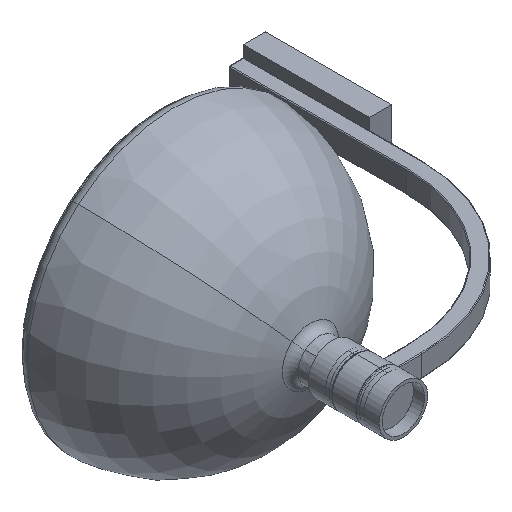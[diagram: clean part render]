
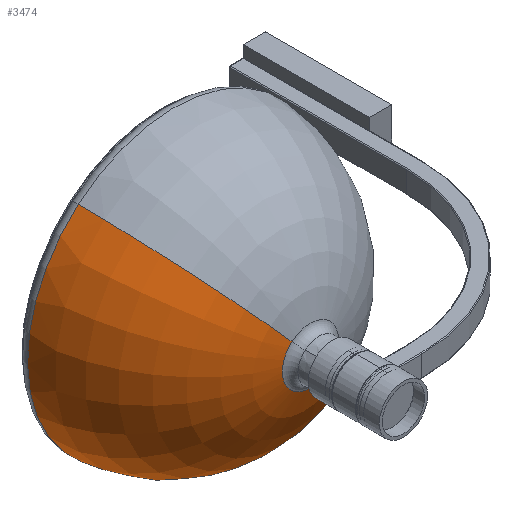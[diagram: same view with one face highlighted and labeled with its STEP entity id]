
A CAD part, isometric view. The second image highlights one B-rep face of the part: STEP entity #3474.
In plain terms, the highlighted toroidal (fillet/blend) face has major radius 1.67 mm and minor radius 196 mm.
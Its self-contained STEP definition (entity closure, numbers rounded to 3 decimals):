
#291 = AXIS2_PLACEMENT_3D ( 'NONE', #8983, #5236, #10469 ) ;
#378 = AXIS2_PLACEMENT_3D ( 'NONE', #3903, #5183, #13286 ) ;
#509 = CARTESIAN_POINT ( 'NONE',  ( 0., 62.257, 0. ) ) ;
#851 = CARTESIAN_POINT ( 'NONE',  ( 0., 245.649, 37.76 ) ) ;
#866 = CARTESIAN_POINT ( 'NONE',  ( 0., 53., 0. ) ) ;
#1367 = CIRCLE ( 'NONE', #16686, 37.76 ) ;
#2012 = CIRCLE ( 'NONE', #15324, 197.451 ) ;
#3474 = ADVANCED_FACE ( 'NONE', ( #7630 ), #8689, .T. ) ;
#3903 = CARTESIAN_POINT ( 'NONE',  ( 0., 53., 1.67 ) ) ;
#4314 = DIRECTION ( 'NONE',  ( 0., 0., -1. ) ) ;
#5183 = DIRECTION ( 'NONE',  ( 1., 0., 0. ) ) ;
#5236 = DIRECTION ( 'NONE',  ( -1., 0., 0. ) ) ;
#5677 = VERTEX_POINT ( 'NONE', #7878 ) ;
#5703 = EDGE_CURVE ( 'NONE', #9194, #5677, #10952, .T. ) ;
#7630 = FACE_OUTER_BOUND ( 'NONE', #8180, .T. ) ;
#7878 = CARTESIAN_POINT ( 'NONE',  ( 0., 62.257, 197.451 ) ) ;
#8180 = EDGE_LOOP ( 'NONE', ( #10520, #9644, #14050, #16552 ) ) ;
#8575 = CIRCLE ( 'NONE', #291, 196. ) ;
#8689 = TOROIDAL_SURFACE ( 'NONE', #14863, 1.67, 196. ) ;
#8983 = CARTESIAN_POINT ( 'NONE',  ( 0., 53., -1.67 ) ) ;
#9071 = VERTEX_POINT ( 'NONE', #15231 ) ;
#9194 = VERTEX_POINT ( 'NONE', #851 ) ;
#9644 = ORIENTED_EDGE ( 'NONE', *, *, #16316, .T. ) ;
#9968 = DIRECTION ( 'NONE',  ( 0., 0., -1. ) ) ;
#10079 = DIRECTION ( 'NONE',  ( 0., -1., 0. ) ) ;
#10115 = DIRECTION ( 'NONE',  ( 0., -1., 0. ) ) ;
#10469 = DIRECTION ( 'NONE',  ( 0., 0., 1. ) ) ;
#10520 = ORIENTED_EDGE ( 'NONE', *, *, #5703, .F. ) ;
#10766 = EDGE_CURVE ( 'NONE', #5677, #9071, #2012, .T. ) ;
#10952 = CIRCLE ( 'NONE', #378, 196. ) ;
#11088 = VERTEX_POINT ( 'NONE', #14334 ) ;
#11516 = CARTESIAN_POINT ( 'NONE',  ( 0., 245.649, 0. ) ) ;
#12250 = DIRECTION ( 'NONE',  ( 0., -1., 0. ) ) ;
#12960 = EDGE_CURVE ( 'NONE', #11088, #9071, #8575, .T. ) ;
#13286 = DIRECTION ( 'NONE',  ( 0., 0., -1. ) ) ;
#14050 = ORIENTED_EDGE ( 'NONE', *, *, #12960, .T. ) ;
#14334 = CARTESIAN_POINT ( 'NONE',  ( 0., 245.649, -37.76 ) ) ;
#14863 = AXIS2_PLACEMENT_3D ( 'NONE', #866, #10079, #9968 ) ;
#15231 = CARTESIAN_POINT ( 'NONE',  ( 0., 62.257, -197.451 ) ) ;
#15324 = AXIS2_PLACEMENT_3D ( 'NONE', #509, #12250, #4314 ) ;
#16316 = EDGE_CURVE ( 'NONE', #9194, #11088, #1367, .T. ) ;
#16552 = ORIENTED_EDGE ( 'NONE', *, *, #10766, .F. ) ;
#16686 = AXIS2_PLACEMENT_3D ( 'NONE', #11516, #10115, #16776 ) ;
#16776 = DIRECTION ( 'NONE',  ( 0., 0., -1. ) ) ;
